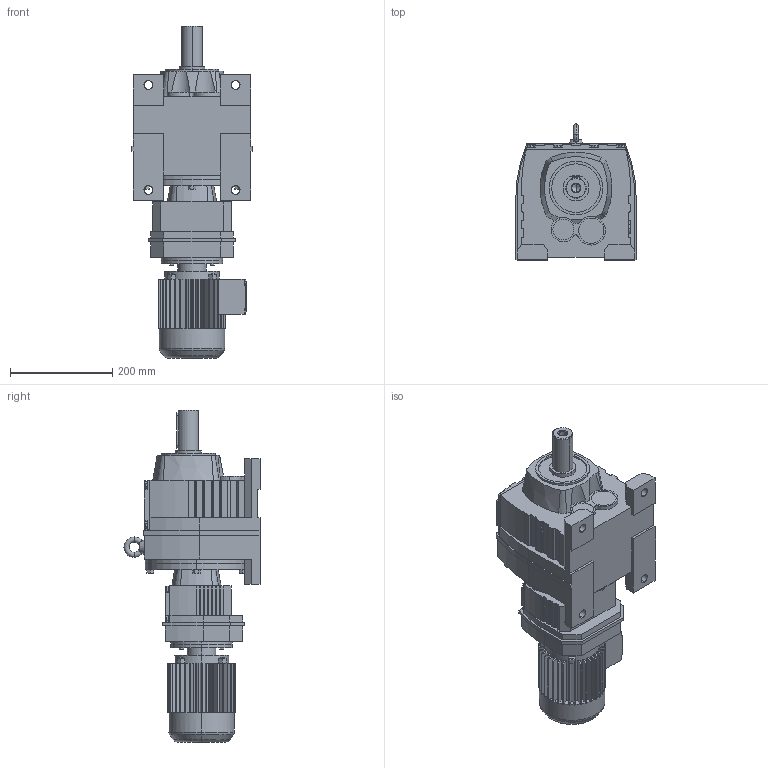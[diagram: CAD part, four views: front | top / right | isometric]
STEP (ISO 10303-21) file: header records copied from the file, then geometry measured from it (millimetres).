
FILE_DESCRIPTION(('Open CASCADE Model'),'2;1');
FILE_NAME('Open CASCADE Shape Model','2021-07-24T14:33:48',('Author'),( 'Open CASCADE'),'Open CASCADE STEP processor 6.3','Open CASCADE 6.3' ,'Unknown');
FILE_SCHEMA(('AUTOMOTIVE_DESIGN_CC2 { 1 2 10303 214 -1 1 5 4 }'));
Length unit declared in the file: millimetre
Products named in the file (4): 1_R77R37DR63; R37‵167_R77R37.step; 萇儂_120-DR63-191-246-132-105.step; R_77_37.step
Assembly tree (3 placements, depth 2):
  1_R77R37DR63
    R37‵167_R77R37.step
    萇儂_120-DR63-191-246-132-105.step
    R_77_37.step
Bounding box: 235 x 265.5 x 648 mm (x, y, z)
Volume: 13956758.8 mm3; surface area: 710212.9 mm2
Topology: 3 solids, 3 shells, 974 faces, 2600 edges, 1693 vertices
Faces by surface type: plane 718, cylinder 218, cone 28, torus 10
Entity records: 67268 total; most frequent: CARTESIAN_POINT 17089, DIRECTION 8845, LINE 5281, VECTOR 5281, ORIENTED_EDGE 5196, PCURVE 5196, DEFINITIONAL_REPRESENTATION 5196, EDGE_CURVE 2598
